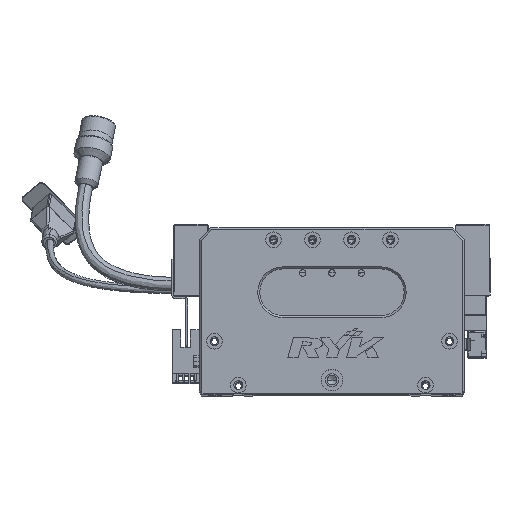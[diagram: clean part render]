
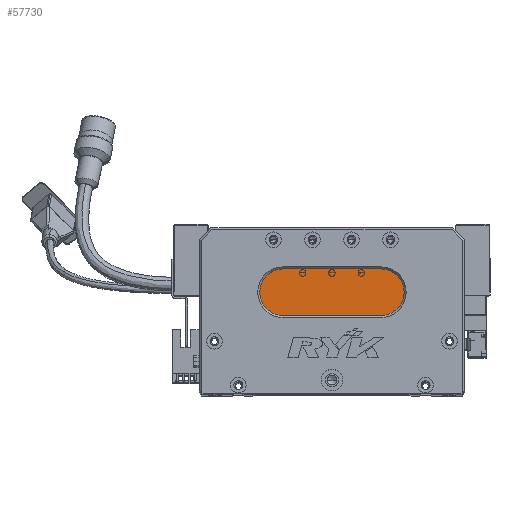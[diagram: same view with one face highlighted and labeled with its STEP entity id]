
A CAD part, top view. The second image highlights one B-rep face of the part: STEP entity #57730.
In plain terms, the highlighted planar face has unit normal (0, 0, 1) as drawn and (0, 0, -1) by its records, which use the part's own axes.
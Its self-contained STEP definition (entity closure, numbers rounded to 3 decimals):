
#1552 = CARTESIAN_POINT ( 'NONE',  ( 93., 64., 13. ) ) ;
#6255 = CARTESIAN_POINT ( 'NONE',  ( 93., 40., 13. ) ) ;
#7993 = DIRECTION ( 'NONE',  ( 1., 0., 0. ) ) ;
#8242 = EDGE_CURVE ( 'NONE', #15073, #11354, #10906, .T. ) ;
#9040 = ORIENTED_EDGE ( 'NONE', *, *, #29302, .T. ) ;
#10906 = LINE ( 'NONE', #67567, #50609 ) ;
#11354 = VERTEX_POINT ( 'NONE', #46329 ) ;
#15045 = ORIENTED_EDGE ( 'NONE', *, *, #8242, .T. ) ;
#15073 = VERTEX_POINT ( 'NONE', #6255 ) ;
#17864 = FACE_OUTER_BOUND ( 'NONE', #60702, .T. ) ;
#18435 = AXIS2_PLACEMENT_3D ( 'NONE', #65062, #65516, #32753 ) ;
#18934 = VECTOR ( 'NONE', #7993, 1000. ) ;
#21933 = EDGE_CURVE ( 'NONE', #56305, #15073, #52573, .T. ) ;
#24783 = CIRCLE ( 'NONE', #18435, 12. ) ;
#27923 = VERTEX_POINT ( 'NONE', #58839 ) ;
#29161 = PLANE ( 'NONE',  #53993 ) ;
#29302 = EDGE_CURVE ( 'NONE', #11354, #27923, #66875, .T. ) ;
#29854 = CARTESIAN_POINT ( 'NONE',  ( 93., 52., 13. ) ) ;
#32534 = DIRECTION ( 'NONE',  ( 0., 0., -1. ) ) ;
#32753 = DIRECTION ( 'NONE',  ( -1., 0., 0. ) ) ;
#33625 = ORIENTED_EDGE ( 'NONE', *, *, #21933, .T. ) ;
#34908 = CARTESIAN_POINT ( 'NONE',  ( 93., 64., 13. ) ) ;
#34953 = DIRECTION ( 'NONE',  ( -1., 0., 0. ) ) ;
#37710 = DIRECTION ( 'NONE',  ( -1., 0., 0. ) ) ;
#40207 = DIRECTION ( 'NONE',  ( -1., 0., 0. ) ) ;
#41768 = CARTESIAN_POINT ( 'NONE',  ( 43., 64., 13. ) ) ;
#43184 = AXIS2_PLACEMENT_3D ( 'NONE', #29854, #67139, #40207 ) ;
#45676 = DIRECTION ( 'NONE',  ( -1., 0., 0. ) ) ;
#46329 = CARTESIAN_POINT ( 'NONE',  ( 43., 40., 13. ) ) ;
#48198 = ORIENTED_EDGE ( 'NONE', *, *, #65146, .T. ) ;
#50609 = VECTOR ( 'NONE', #45676, 1000. ) ;
#52573 = CIRCLE ( 'NONE', #43184, 12. ) ;
#53993 = AXIS2_PLACEMENT_3D ( 'NONE', #64399, #32534, #37710 ) ;
#56305 = VERTEX_POINT ( 'NONE', #1552 ) ;
#57730 = ADVANCED_FACE ( 'NONE', ( #17864 ), #29161, .T. ) ;
#58839 = CARTESIAN_POINT ( 'NONE',  ( 31., 52., 13. ) ) ;
#59908 = ORIENTED_EDGE ( 'NONE', *, *, #64750, .T. ) ;
#60702 = EDGE_LOOP ( 'NONE', ( #33625, #15045, #9040, #48198, #59908 ) ) ;
#61852 = CARTESIAN_POINT ( 'NONE',  ( 43., 52., 13. ) ) ;
#64399 = CARTESIAN_POINT ( 'NONE',  ( 93., 52., 13. ) ) ;
#64750 = EDGE_CURVE ( 'NONE', #69895, #56305, #66196, .T. ) ;
#65062 = CARTESIAN_POINT ( 'NONE',  ( 43., 52., 13. ) ) ;
#65146 = EDGE_CURVE ( 'NONE', #27923, #69895, #24783, .T. ) ;
#65516 = DIRECTION ( 'NONE',  ( 0., 0., -1. ) ) ;
#65680 = AXIS2_PLACEMENT_3D ( 'NONE', #61852, #67278, #34953 ) ;
#66196 = LINE ( 'NONE', #34908, #18934 ) ;
#66875 = CIRCLE ( 'NONE', #65680, 12. ) ;
#67139 = DIRECTION ( 'NONE',  ( 0., 0., -1. ) ) ;
#67278 = DIRECTION ( 'NONE',  ( 0., 0., -1. ) ) ;
#67567 = CARTESIAN_POINT ( 'NONE',  ( 93., 40., 13. ) ) ;
#69895 = VERTEX_POINT ( 'NONE', #41768 ) ;
